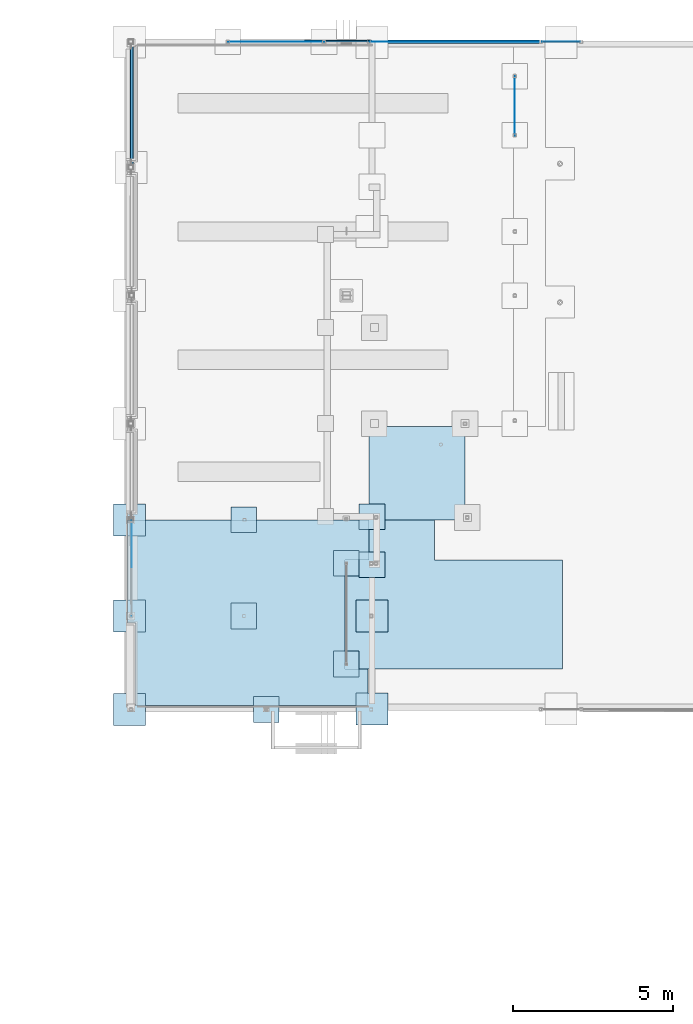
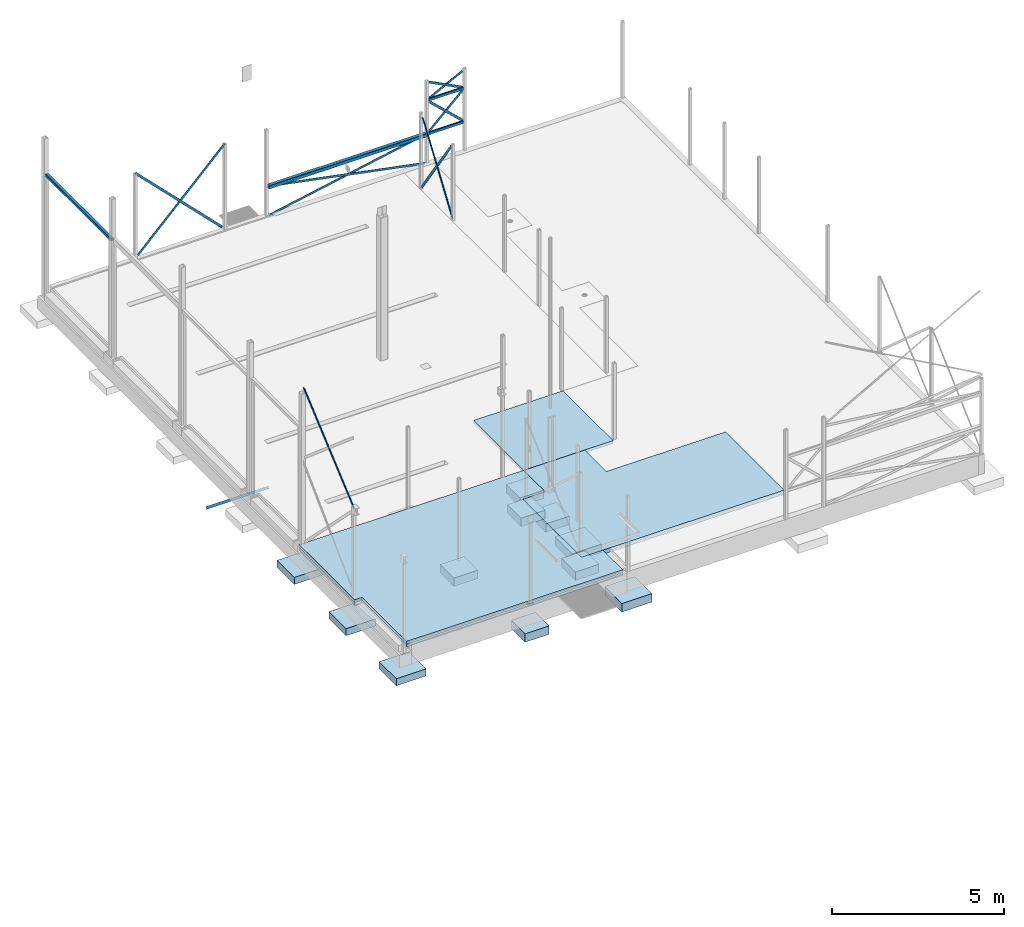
# One storey, part 8 of 18: 16 beams, 16 slabs.
"""IFC2X3 building model written with IfcOpenShell, lengths in millimetres."""

import ifcopenshell
import ifcopenshell.guid

model = None  # the IFC model being written
_history = None  # IfcOwnerHistory: only IFC2X3 demands one
_inside = {}  # id of a spatial element -> (the spatial element, [elements in it])
_under = {}  # id of a project, library or spatial element -> (it, [spatial elements below it])
_declared = {}  # id of a project -> (the project, [libraries it declares])
_typed = {}  # id of a type object -> (the type object, [elements of that type])
_made_of = {}  # id of a material, layer set ... -> (it, [elements and type objects made of it])


def new_model(schema):
    """Start an empty IFC model of exactly this schema.

    Asked for "IFC4X3", IfcOpenShell would pick the latest addendum, in which some entities
    have other attributes; the version numbers below select the first issue.
    IFC2X3 requires an IfcOwnerHistory on every rooted entity: one is made here for all.
    """
    global model, _history
    if schema == "IFC4X3":
        model = ifcopenshell.file(schema_version=(4, 3, 0, 0))
    else:
        model = ifcopenshell.file(schema=schema)
    _inside.clear()
    _under.clear()
    _declared.clear()
    _typed.clear()
    _made_of.clear()
    _history = None
    if model.schema == "IFC2X3":
        org = make("IfcOrganization", Name="unknown")
        user = make(
            "IfcPersonAndOrganization",
            ThePerson=make("IfcPerson", FamilyName="unknown"),
            TheOrganization=org,
        )
        app = make(
            "IfcApplication",
            ApplicationDeveloper=org,
            Version="unknown",
            ApplicationFullName="unknown",
            ApplicationIdentifier="unknown",
        )
        _history = make(
            "IfcOwnerHistory",
            OwningUser=user,
            OwningApplication=app,
            ChangeAction="ADDED",
            CreationDate=0,
        )
    return model


def make(cls, **values):
    """One entity of the class cls with the attributes given. An attribute that is None is left unset."""
    return model.create_entity(
        cls, **{name: value for name, value in values.items() if value is not None}
    )


def entity(cls, *values):
    """Any entity or typed value of the class cls, its attributes in the order of the schema. None: left unset."""
    e = model.create_entity(cls)
    for i, value in enumerate(values):
        if value is not None:
            e[i] = value
    return e


def rooted(cls, **values):
    """An entity with a GlobalId (a new one), such as an element, a storey or a relation."""
    return make(cls, GlobalId=ifcopenshell.guid.new(), OwnerHistory=_history, **values)


def si_unit(unit_type, name, prefix=None):
    """IfcSIUnit, for example si_unit("LENGTHUNIT", "METRE", prefix="MILLI")."""
    return make("IfcSIUnit", UnitType=unit_type, Prefix=prefix, Name=name)


def converted_unit(unit_type, name, factor, base, dimensions=None, offset=None):
    """IfcConversionBasedUnit, such as the inch: factor (a typed value) times the base unit."""
    return make(
        "IfcConversionBasedUnit"
        if offset is None
        else "IfcConversionBasedUnitWithOffset",
        ConversionOffset=offset,
        Dimensions=None
        if dimensions is None
        else entity("IfcDimensionalExponents", *dimensions),
        UnitType=unit_type,
        Name=name,
        ConversionFactor=make(
            "IfcMeasureWithUnit", ValueComponent=factor, UnitComponent=base
        ),
    )


def derived_unit(unit_type, elements):
    """IfcDerivedUnit: a product of units, each with its exponent."""
    return make(
        "IfcDerivedUnit",
        Elements=[
            make("IfcDerivedUnitElement", Unit=unit, Exponent=power)
            for unit, power in elements
        ],
        UnitType=unit_type,
    )


def assignment(units):
    """IfcUnitAssignment: the units of a project."""
    return None if units is None else make("IfcUnitAssignment", Units=units)


def point(xyz):
    """IfcCartesianPoint."""
    return None if xyz is None else make("IfcCartesianPoint", Coordinates=xyz)


def direction(xyz):
    """IfcDirection."""
    return None if xyz is None else make("IfcDirection", DirectionRatios=xyz)


def frame(location, z_axis=None, x_axis=None):
    """IfcAxis2Placement3D, a coordinate frame: its origin and axes. An axis left out is left unset."""
    return make(
        "IfcAxis2Placement3D",
        Location=point(location),
        Axis=direction(z_axis),
        RefDirection=direction(x_axis),
    )


def frame_2d(location, x_axis=None):
    """IfcAxis2Placement2D, a coordinate frame in the plane: its origin and x axis."""
    return make(
        "IfcAxis2Placement2D", Location=point(location), RefDirection=direction(x_axis)
    )


def origin():
    """The frame at (0, 0, 0) with its axes left unset."""
    return frame((0.0, 0.0, 0.0))


def origin_2d_with_axis():
    """The frame at (0, 0) in the plane with the x axis (1, 0) written out."""
    return frame_2d((0.0, 0.0), x_axis=(1.0, 0.0))


def place(relative_to, where):
    """IfcLocalPlacement: puts the frame where relative to a parent placement (None: the world)."""
    return make(
        "IfcLocalPlacement", PlacementRelTo=relative_to, RelativePlacement=where
    )


def context(
    kind, dimensions, precision=None, world=None, true_north=None, identifier=None
):
    """IfcGeometricRepresentationContext, for example the 3D "Model" context."""
    return make(
        "IfcGeometricRepresentationContext",
        ContextIdentifier=identifier,
        ContextType=kind,
        CoordinateSpaceDimension=dimensions,
        Precision=precision,
        WorldCoordinateSystem=world,
        TrueNorth=true_north,
    )


def subcontext(parent, identifier, kind, view, scale=None):
    """IfcGeometricRepresentationSubContext, for example "Body" below "Model"."""
    return make(
        "IfcGeometricRepresentationSubContext",
        ContextIdentifier=identifier,
        ContextType=kind,
        ParentContext=parent,
        TargetScale=scale,
        TargetView=view,
    )


def project(units=None, contexts=None):
    """IfcProject with its units and contexts."""
    return rooted(
        "IfcProject",
        Name="project",
        RepresentationContexts=contexts,
        UnitsInContext=assignment(units),
    )


def spatial(cls, under=None, at=None, **own):
    """A site, building, storey or space (cls), placed at a placement, below another one or the project."""
    s = rooted(cls, ObjectPlacement=at, **own)
    if under is not None:
        _under.setdefault(under.id(), (under, []))[1].append(s)
    return s


def polyline(points):
    """IfcPolyline through the points."""
    return make("IfcPolyline", Points=[point(p) for p in points])


def circle_curve(where, radius):
    """IfcCircle in the frame where."""
    return make("IfcCircle", Position=where, Radius=radius)


def parameter(value):
    """IfcParameterValue: where a trimmed curve begins or ends, as a parameter of its basis curve."""
    return model.create_entity("IfcParameterValue", value)


def trimmed(basis, trim1, trim2, sense, master):
    """IfcTrimmedCurve: the piece of a basis curve between two trims."""
    return make(
        "IfcTrimmedCurve",
        BasisCurve=basis,
        Trim1=trim1,
        Trim2=trim2,
        SenseAgreement=sense,
        MasterRepresentation=master,
    )


def segment(curve, same_sense, transition):
    """IfcCompositeCurveSegment."""
    return make(
        "IfcCompositeCurveSegment",
        Transition=transition,
        SameSense=same_sense,
        ParentCurve=curve,
    )


def composite_curve(segments, self_intersect=None):
    """IfcCompositeCurve: segments joined end to end."""
    return make("IfcCompositeCurve", Segments=segments, SelfIntersect=self_intersect)


def profile(cls, at=None, kind="AREA", **sizes):
    """A parametric profile (cls). Its sizes go by their IFC names, for example OverallWidth=200.0."""
    return make(cls, ProfileType=kind, Position=at, **sizes)


def rectangle(**sizes):
    """IfcRectangleProfileDef."""
    return profile("IfcRectangleProfileDef", **sizes)


def outline(outer, holes=None, kind="AREA"):
    """IfcArbitraryClosedProfileDef: a profile drawn as a closed curve; with holes, ...WithVoids."""
    if holes is None:
        return make("IfcArbitraryClosedProfileDef", ProfileType=kind, OuterCurve=outer)
    return make(
        "IfcArbitraryProfileDefWithVoids",
        ProfileType=kind,
        OuterCurve=outer,
        InnerCurves=holes,
    )


def extrude(swept, where, along, depth):
    """IfcExtrudedAreaSolid: the profile swept, set in the frame where, extruded along a direction by depth."""
    return make(
        "IfcExtrudedAreaSolid",
        SweptArea=swept,
        Position=where,
        ExtrudedDirection=direction(along),
        Depth=depth,
    )


def faces_of(points, faces, orient=None, outer=None):
    """IfcFace entities. A face is a list of loops; a loop is a list of indices into points, from 0.

    orient and outer hold one flag for each loop. By default every Orientation is true, the
    first loop of a face is its IfcFaceOuterBound and the others are IfcFaceBound.
    """
    made = []
    for i, loops in enumerate(faces):
        bounds = []
        for j, loop in enumerate(loops):
            is_outer = j == 0 if outer is None else outer[i][j]
            bounds.append(
                make(
                    "IfcFaceOuterBound" if is_outer else "IfcFaceBound",
                    Bound=make("IfcPolyLoop", Polygon=[points[k] for k in loop]),
                    Orientation=True if orient is None else orient[i][j],
                )
            )
        made.append(make("IfcFace", Bounds=bounds))
    return made


def faceted_brep(points, faces, orient=None, outer=None, voids=None):
    """IfcFacetedBrep: a solid bounded by flat faces; with voids (closed shells), ...WithVoids."""
    shared = [point(p) for p in points]
    hull = make("IfcClosedShell", CfsFaces=faces_of(shared, faces, orient, outer))
    if voids is None:
        return make("IfcFacetedBrep", Outer=hull)
    return make(
        "IfcFacetedBrepWithVoids",
        Outer=hull,
        Voids=[
            make(cls, CfsFaces=faces_of(shared, fs, o, b)) for cls, fs, o, b in voids
        ],
    )


def shape(context_of_items, identifier, shape_type, items):
    """IfcShapeRepresentation: the items that make up one representation, for example the "Body"."""
    return make(
        "IfcShapeRepresentation",
        ContextOfItems=context_of_items,
        RepresentationIdentifier=identifier,
        RepresentationType=shape_type,
        Items=items,
    )


def material(Name=None, Category=None):
    """IfcMaterial."""
    return make("IfcMaterial", Name=Name, Category=Category)


def layer(
    of_material, thickness, ventilated=None, Name=None, Category=None, Priority=None
):
    """IfcMaterialLayer: one layer of a wall or slab, of a material (None: an air gap)."""
    return make(
        "IfcMaterialLayer",
        Material=of_material,
        LayerThickness=thickness,
        IsVentilated=ventilated,
        Name=Name,
        Category=Category,
        Priority=Priority,
    )


def layer_set(layers, Name=None):
    """IfcMaterialLayerSet."""
    return make("IfcMaterialLayerSet", MaterialLayers=layers, LayerSetName=Name)


def layer_usage(for_layer_set, set_direction, sense, offset, extent=None):
    """IfcMaterialLayerSetUsage: how a layer set lies in its element."""
    return make(
        "IfcMaterialLayerSetUsage",
        ForLayerSet=for_layer_set,
        LayerSetDirection=set_direction,
        DirectionSense=sense,
        OffsetFromReferenceLine=offset,
        ReferenceExtent=extent,
    )


def made_of(thing, what):
    """Note that an element or type object is made of a material, layer set ...; save() writes the relation."""
    if what is not None:
        _made_of.setdefault(what.id(), (what, []))[1].append(thing)
    return thing


def type_object(cls, material=None, **own):
    """A type object (cls), such as IfcWallType, which elements share."""
    return made_of(rooted(cls, **own), material)


def element(
    cls,
    number,
    at=None,
    inside=None,
    cuts=None,
    type_object=None,
    material=None,
    context=None,
    identifier="Body",
    shape_type=None,
    held_by="IfcProductDefinitionShape",
    body=None,
    shapes=None,
    **own,
):
    """One element of the class cls, such as IfcWall. Its Tag is "e" and its number.

    at: its placement. inside: the storey or other place that contains it. cuts: it is an
    opening in that element (IfcRelVoidsElement). A single representation is given by context,
    identifier, shape_type and body (its items); several are given by shapes. held_by: the class
    of the entity that holds the representations. save() writes the other relations.
    """
    e = rooted(cls, Tag="e%d" % number, ObjectPlacement=at, **own)
    if body is not None:
        shapes = [shape(context, identifier, shape_type, body)]
    if shapes is not None:
        e.Representation = make(held_by, Representations=shapes)
    if inside is not None:
        _inside.setdefault(inside.id(), (inside, []))[1].append(e)
    if cuts is not None:
        rooted(
            "IfcRelVoidsElement", RelatingBuildingElement=cuts, RelatedOpeningElement=e
        )
    if type_object is not None:
        _typed.setdefault(type_object.id(), (type_object, []))[1].append(e)
    return made_of(e, material)


def aggregate(whole, parts):
    """IfcRelAggregates: a whole, such as a stair, and the parts it consists of."""
    return rooted("IfcRelAggregates", RelatingObject=whole, RelatedObjects=parts)


def save(model, path):
    """Write the relations noted so far, then the file.

    IfcRelAggregates (storeys below a building ...), IfcRelContainedInSpatialStructure (elements
    in a storey), IfcRelDefinesByType, IfcRelAssociatesMaterial and IfcRelDeclares: one each for
    every whole, place, type object, material and project.
    """
    for whole, parts in _under.values():
        aggregate(whole, parts)
    for where, things in _inside.values():
        rooted(
            "IfcRelContainedInSpatialStructure",
            RelatedElements=things,
            RelatingStructure=where,
        )
    for kind, things in _typed.values():
        rooted("IfcRelDefinesByType", RelatedObjects=things, RelatingType=kind)
    for what, things in _made_of.values():
        rooted("IfcRelAssociatesMaterial", RelatedObjects=things, RelatingMaterial=what)
    for by, libraries in _declared.values():
        rooted("IfcRelDeclares", RelatingContext=by, RelatedDefinitions=libraries)
    model.write(path)


model = new_model("IFC2X3")

# Units and contexts
model_context = context("Model", 3, precision=0.01, world=origin(), true_north=direction((6.12303176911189e-17, 1.0)))
body_context = subcontext(model_context, "Body", "Model", "MODEL_VIEW")
ifc_project = project(units=[si_unit("LENGTHUNIT", "METRE", prefix="MILLI"), si_unit("AREAUNIT", "SQUARE_METRE"), si_unit("VOLUMEUNIT", "CUBIC_METRE"), converted_unit("PLANEANGLEUNIT", "DEGREE", entity("IfcRatioMeasure", 0.0174532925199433), si_unit("PLANEANGLEUNIT", "RADIAN"), dimensions=[0, 0, 0, 0, 0, 0, 0]), si_unit("MASSUNIT", "GRAM", prefix="KILO"), derived_unit("MASSDENSITYUNIT", [(si_unit("MASSUNIT", "GRAM", prefix="KILO"), 1), (si_unit("LENGTHUNIT", "METRE"), -3)]), si_unit("TIMEUNIT", "SECOND"), si_unit("FREQUENCYUNIT", "HERTZ"), si_unit("THERMODYNAMICTEMPERATUREUNIT", "DEGREE_CELSIUS"), derived_unit("THERMALTRANSMITTANCEUNIT", [(si_unit("MASSUNIT", "GRAM", prefix="KILO"), 1), (si_unit("THERMODYNAMICTEMPERATUREUNIT", "KELVIN"), -1), (si_unit("TIMEUNIT", "SECOND"), -3)]), derived_unit("VOLUMETRICFLOWRATEUNIT", [(si_unit("LENGTHUNIT", "METRE"), 3), (si_unit("TIMEUNIT", "SECOND"), -1)]), si_unit("ELECTRICCURRENTUNIT", "AMPERE"), si_unit("ELECTRICVOLTAGEUNIT", "VOLT"), si_unit("POWERUNIT", "WATT"), si_unit("FORCEUNIT", "NEWTON", prefix="KILO"), si_unit("ILLUMINANCEUNIT", "LUX"), si_unit("LUMINOUSFLUXUNIT", "LUMEN"), si_unit("LUMINOUSINTENSITYUNIT", "CANDELA"), derived_unit("USERDEFINED", [(si_unit("MASSUNIT", "GRAM", prefix="KILO"), -1), (si_unit("LENGTHUNIT", "METRE"), -2), (si_unit("TIMEUNIT", "SECOND"), 3), (si_unit("LUMINOUSFLUXUNIT", "LUMEN"), 1)]), derived_unit("LINEARVELOCITYUNIT", [(si_unit("LENGTHUNIT", "METRE"), 1), (si_unit("TIMEUNIT", "SECOND"), -1)]), si_unit("PRESSUREUNIT", "PASCAL"), derived_unit("USERDEFINED", [(si_unit("LENGTHUNIT", "METRE"), -2), (si_unit("MASSUNIT", "GRAM", prefix="KILO"), 1), (si_unit("TIMEUNIT", "SECOND"), -2)])], contexts=[model_context])

# Site, building, storey
site_placement = place(None, frame((0.0, 0.0, 101000.0)))
site = spatial("IfcSite", under=ifc_project, at=site_placement, Name="Default", CompositionType="ELEMENT")
building_placement = place(site_placement, origin())
building = spatial("IfcBuilding", under=site, at=building_placement, CompositionType="ELEMENT")
storey_placement = place(building_placement, origin())
storey = spatial("IfcBuildingStorey", under=building, at=storey_placement, Name="01", CompositionType="ELEMENT", Elevation=8.9295595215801e-10)

# Beams
ifc_material_1 = material(Name="S355")
beam_type_1 = type_object("IfcBeamType", Name="Bjelke HUP:HUP 100x50x5", PredefinedType="BEAM")
beam_1_placement = place(storey_placement, frame((17817.2389636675, 44337.9507529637, 1045.0), z_axis=(0.0, 0.0, 1.0), x_axis=(-1.0, 0.0, 0.0)))
element("IfcBeam", 1, at=beam_1_placement, inside=storey, type_object=beam_type_1, material=ifc_material_1, Name="Bjelke HUP:HUP 100x50x5", ObjectType="Bjelke HUP:HUP 100x50x5", context=body_context, shape_type="SweptSolid", body=[
    extrude(outline(composite_curve([segment(trimmed(circle_curve(frame_2d((-15.0, -40.0), x_axis=(1.0, 0.0)), 10.0), [parameter(180.0)], [parameter(270.0)], True, "PARAMETER"), True, "CONTINUOUS"), segment(polyline([(-15.0, -50.0), (15.0, -50.0)]), True, "CONTINUOUS"), segment(trimmed(circle_curve(frame_2d((15.0, -40.0), x_axis=(1.0, 0.0)), 10.0), [parameter(270.0)], [parameter(1.01777749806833e-13)], True, "PARAMETER"), True, "CONTINUOUS"), segment(polyline([(25.0, -40.0), (25.0, 40.0)]), True, "CONTINUOUS"), segment(trimmed(circle_curve(frame_2d((15.0, 40.0), x_axis=(1.0, 0.0)), 10.0), [parameter(360.0)], [parameter(89.9999999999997)], True, "PARAMETER"), True, "CONTINUOUS"), segment(polyline([(15.0, 50.0), (-15.0, 50.0)]), True, "CONTINUOUS"), segment(trimmed(circle_curve(frame_2d((-15.0, 40.0), x_axis=(1.0, 0.0)), 10.0), [parameter(90.0000000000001)], [parameter(180.0)], True, "PARAMETER"), True, "CONTINUOUS"), segment(polyline([(-25.0, 40.0), (-25.0, -40.0)]), True, "CONTINUOUS")], self_intersect=False), holes=[composite_curve([segment(polyline([(15.0, -45.0), (-15.0, -45.0)]), True, "CONTINUOUS"), segment(trimmed(circle_curve(frame_2d((-15.0, -40.0), x_axis=(1.0, 0.0)), 5.0), [parameter(180.0)], [parameter(270.0)], True, "PARAMETER"), False, "CONTINUOUS"), segment(polyline([(-20.0, -40.0), (-20.0, 40.0)]), True, "CONTINUOUS"), segment(trimmed(circle_curve(frame_2d((-15.0, 40.0), x_axis=(1.0, 0.0)), 5.0), [parameter(90.0000000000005)], [parameter(180.0)], True, "PARAMETER"), False, "CONTINUOUS"), segment(polyline([(-15.0, 45.0), (15.0, 45.0)]), True, "CONTINUOUS"), segment(trimmed(circle_curve(frame_2d((15.0, 40.0), x_axis=(1.0, 0.0)), 5.0), [parameter(0.0)], [parameter(90.0000000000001)], True, "PARAMETER"), False, "CONTINUOUS"), segment(polyline([(20.0, 40.0), (20.0, -40.0)]), True, "CONTINUOUS"), segment(trimmed(circle_curve(frame_2d((15.0, -40.0), x_axis=(1.0, 0.0)), 5.0), [parameter(270.0)], [parameter(3.05333249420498e-13)], True, "PARAMETER"), False, "CONTINUOUS")], self_intersect=False)]), frame((50.0, 0.0, -50.0), z_axis=(1.0, 0.0, 0.0), x_axis=(0.0, -1.0, 0.0)), (0.0, 0.0, 1.0), 1161.94875565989),
])
beam_2_placement = place(storey_placement, frame((16555.2902080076, 44337.9507529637, 2235.0)))
element("IfcBeam", 2, at=beam_2_placement, inside=storey, type_object=beam_type_1, material=ifc_material_1, Name="Bjelke HUP:HUP 100x50x5", ObjectType="Bjelke HUP:HUP 100x50x5", context=body_context, shape_type="SweptSolid", body=[
    extrude(outline(composite_curve([segment(trimmed(circle_curve(frame_2d((-15.0, -40.0), x_axis=(1.0, 0.0)), 10.0), [parameter(180.0)], [parameter(270.0)], True, "PARAMETER"), True, "CONTINUOUS"), segment(polyline([(-15.0, -50.0), (15.0, -50.0)]), True, "CONTINUOUS"), segment(trimmed(circle_curve(frame_2d((15.0, -40.0), x_axis=(1.0, 0.0)), 10.0), [parameter(270.0)], [parameter(1.01777749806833e-13)], True, "PARAMETER"), True, "CONTINUOUS"), segment(polyline([(25.0, -40.0), (25.0, 40.0)]), True, "CONTINUOUS"), segment(trimmed(circle_curve(frame_2d((15.0, 40.0), x_axis=(1.0, 0.0)), 10.0), [parameter(360.0)], [parameter(89.9999999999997)], True, "PARAMETER"), True, "CONTINUOUS"), segment(polyline([(15.0, 50.0), (-15.0, 50.0)]), True, "CONTINUOUS"), segment(trimmed(circle_curve(frame_2d((-15.0, 40.0), x_axis=(1.0, 0.0)), 10.0), [parameter(90.0000000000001)], [parameter(180.0)], True, "PARAMETER"), True, "CONTINUOUS"), segment(polyline([(-25.0, 40.0), (-25.0, -40.0)]), True, "CONTINUOUS")], self_intersect=False), holes=[composite_curve([segment(polyline([(15.0, -45.0), (-15.0, -45.0)]), True, "CONTINUOUS"), segment(trimmed(circle_curve(frame_2d((-15.0, -40.0), x_axis=(1.0, 0.0)), 5.0), [parameter(180.0)], [parameter(270.0)], True, "PARAMETER"), False, "CONTINUOUS"), segment(polyline([(-20.0, -40.0), (-20.0, 40.0)]), True, "CONTINUOUS"), segment(trimmed(circle_curve(frame_2d((-15.0, 40.0), x_axis=(1.0, 0.0)), 5.0), [parameter(90.0000000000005)], [parameter(180.0)], True, "PARAMETER"), False, "CONTINUOUS"), segment(polyline([(-15.0, 45.0), (15.0, 45.0)]), True, "CONTINUOUS"), segment(trimmed(circle_curve(frame_2d((15.0, 40.0), x_axis=(1.0, 0.0)), 5.0), [parameter(0.0)], [parameter(90.0000000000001)], True, "PARAMETER"), False, "CONTINUOUS"), segment(polyline([(20.0, 40.0), (20.0, -40.0)]), True, "CONTINUOUS"), segment(trimmed(circle_curve(frame_2d((15.0, -40.0), x_axis=(1.0, 0.0)), 5.0), [parameter(270.0)], [parameter(3.05333249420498e-13)], True, "PARAMETER"), False, "CONTINUOUS")], self_intersect=False)]), frame((50.0, 0.0, -50.0), z_axis=(1.0, 0.0, 0.0), x_axis=(0.0, -1.0, 0.0)), (0.0, 0.0, 1.0), 1161.94875565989),
])
beam_type_2 = type_object("IfcBeamType", Name="Bjelke HUP:HUP 120x120x5", PredefinedType="BEAM")
beam_3_placement = place(storey_placement, frame((16555.2902080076, 44337.9507529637, 1045.0), z_axis=(0.0, 0.0, 1.0), x_axis=(-1.0, 0.0, 0.0)))
element("IfcBeam", 3, at=beam_3_placement, inside=storey, type_object=beam_type_2, material=ifc_material_1, Name="Bjelke HUP:HUP 120x120x5", ObjectType="Bjelke HUP:HUP 120x120x5", context=body_context, shape_type="SweptSolid", body=[
    extrude(outline(composite_curve([segment(trimmed(circle_curve(frame_2d((-50.0, -50.0), x_axis=(1.0, 0.0)), 10.0), [parameter(180.0)], [parameter(269.999999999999)], True, "PARAMETER"), True, "CONTINUOUS"), segment(polyline([(-50.0, -60.0), (50.0, -60.0)]), True, "CONTINUOUS"), segment(trimmed(circle_curve(frame_2d((50.0, -50.0), x_axis=(1.0, 0.0)), 10.0), [parameter(270.0)], [parameter(5.08888749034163e-14)], True, "PARAMETER"), True, "CONTINUOUS"), segment(polyline([(60.0, -50.0), (60.0, 50.0)]), True, "CONTINUOUS"), segment(trimmed(circle_curve(frame_2d((50.0, 50.0), x_axis=(1.0, 0.0)), 10.0), [parameter(360.0)], [parameter(89.9999999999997)], True, "PARAMETER"), True, "CONTINUOUS"), segment(polyline([(50.0, 60.0), (-50.0, 60.0)]), True, "CONTINUOUS"), segment(trimmed(circle_curve(frame_2d((-50.0, 50.0), x_axis=(1.0, 0.0)), 10.0), [parameter(90.0000000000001)], [parameter(180.0)], True, "PARAMETER"), True, "CONTINUOUS"), segment(polyline([(-60.0, 50.0), (-60.0, -50.0)]), True, "CONTINUOUS")], self_intersect=False), holes=[composite_curve([segment(polyline([(50.0, -55.0), (-50.0, -55.0)]), True, "CONTINUOUS"), segment(trimmed(circle_curve(frame_2d((-50.0, -50.0), x_axis=(1.0, 0.0)), 5.0), [parameter(180.0)], [parameter(270.0)], True, "PARAMETER"), False, "CONTINUOUS"), segment(polyline([(-55.0, -50.0), (-55.0, 50.0)]), True, "CONTINUOUS"), segment(trimmed(circle_curve(frame_2d((-50.0, 50.0), x_axis=(1.0, 0.0)), 5.0), [parameter(90.0000000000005)], [parameter(180.0)], True, "PARAMETER"), False, "CONTINUOUS"), segment(polyline([(-50.0, 55.0), (50.0, 55.0)]), True, "CONTINUOUS"), segment(trimmed(circle_curve(frame_2d((50.0, 50.0), x_axis=(1.0, 0.0)), 5.0), [parameter(0.0)], [parameter(90.0000000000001)], True, "PARAMETER"), False, "CONTINUOUS"), segment(polyline([(55.0, 50.0), (55.0, -50.0)]), True, "CONTINUOUS"), segment(trimmed(circle_curve(frame_2d((50.0, -50.0), x_axis=(1.0, 0.0)), 5.0), [parameter(270.0)], [parameter(3.05333249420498e-13)], True, "PARAMETER"), False, "CONTINUOUS")], self_intersect=False)]), frame((50.0, 0.0, -60.0), z_axis=(1.0, 0.0, 0.0), x_axis=(0.0, -1.0, 0.0)), (0.0, 0.0, 1.0), 5269.02571102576),
])
ifc_material_2 = material(Name="Structural Framing Fireproofing")
beam_type_3 = type_object("IfcBeamType", Name="Bjelke Stålplate:VINDKRYSS", PredefinedType="BEAM")
beam_4_placement = place(storey_placement, frame((16555.2902080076, 44337.9507529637, 0.0), z_axis=(0.19364292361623, 0.0, 0.98107207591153), x_axis=(-0.98107207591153, 0.0, 0.19364292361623)))
element("IfcBeam", 4, at=beam_4_placement, inside=storey, type_object=beam_type_3, material=ifc_material_2, Name="Bjelke Stålplate:VINDKRYSS", ObjectType="Bjelke Stålplate:VINDKRYSS", context=body_context, shape_type="SweptSolid", body=[
    extrude(rectangle(XDim=79.9999999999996, YDim=8.00000000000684, at=frame_2d((3.5527136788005e-15, -4.33164615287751e-12), x_axis=(1.0, 0.0))), frame((50.9646551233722, 0.0, -40.0), z_axis=(1.0, 0.0, 0.0), x_axis=(0.0, 0.0, -1.0)), (0.0, 0.0, 1.0), 5354.89125226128),
])
beam_5_placement = place(storey_placement, frame((11260.9045409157, 44337.9507529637, 0.0), z_axis=(-0.19364292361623, 0.0, 0.98107207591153), x_axis=(0.98107207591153, 0.0, 0.19364292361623)))
element("IfcBeam", 5, at=beam_5_placement, inside=storey, type_object=beam_type_3, material=ifc_material_2, Name="Bjelke Stålplate:VINDKRYSS", ObjectType="Bjelke Stålplate:VINDKRYSS", context=body_context, shape_type="SweptSolid", body=[
    extrude(rectangle(XDim=79.9999999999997, YDim=8.00000000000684, at=frame_2d((9.2370555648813e-14, -4.33164615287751e-12), x_axis=(1.0, 0.0))), frame((6.09600813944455e-07, 0.0, -40.0), z_axis=(1.0, 0.0, 0.0), x_axis=(0.0, 0.0, -1.0)), (0.0, 0.0, 1.0), 5329.77582482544),
])
beam_6_placement = place(storey_placement, frame((16555.2902080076, 44337.9507529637, 2235.0), z_axis=(0.686062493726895, 0.0, 0.727542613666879), x_axis=(0.727542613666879, 0.0, -0.686062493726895)))
element("IfcBeam", 6, at=beam_6_placement, inside=storey, type_object=beam_type_3, material=ifc_material_2, Name="Bjelke Stålplate:VINDKRYSS", ObjectType="Bjelke Stålplate:VINDKRYSS", context=body_context, shape_type="SweptSolid", body=[
    extrude(rectangle(XDim=80.0000000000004, YDim=8.00000000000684, at=frame_2d((0.0, -4.33164615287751e-12), x_axis=(1.0, 0.0))), frame((144.163376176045, 0.0, -40.0), z_axis=(1.0, 0.0, 0.0), x_axis=(0.0, 0.0, -1.0)), (0.0, 0.0, 1.0), 1521.64799059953),
])
beam_7_placement = place(storey_placement, frame((16555.2902080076, 44337.9507529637, 1045.0), z_axis=(-0.686062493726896, 0.0, 0.727542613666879), x_axis=(0.727542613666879, 0.0, 0.686062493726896)))
element("IfcBeam", 7, at=beam_7_placement, inside=storey, type_object=beam_type_3, material=ifc_material_2, Name="Bjelke Stålplate:VINDKRYSS", ObjectType="Bjelke Stålplate:VINDKRYSS", context=body_context, shape_type="SweptSolid", body=[
    extrude(rectangle(XDim=80.0000000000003, YDim=8.00000000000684, at=frame_2d((-5.32907051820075e-14, -4.33164615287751e-12), x_axis=(1.0, 0.0))), frame((68.7244967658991, 0.0, -40.0), z_axis=(1.0, 0.0, 0.0), x_axis=(0.0, 0.0, -1.0)), (0.0, 0.0, 1.0), 1521.64799059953),
])
beam_8_placement = place(storey_placement, frame((17817.2389636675, 44337.9507529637, 2235.0), z_axis=(0.457903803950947, 0.0, 0.889001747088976), x_axis=(-0.889001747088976, 0.0, 0.457903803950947)))
element("IfcBeam", 8, at=beam_8_placement, inside=storey, type_object=beam_type_3, material=ifc_material_2, Name="Bjelke Stålplate:VINDKRYSS", ObjectType="Bjelke Stålplate:VINDKRYSS", context=body_context, shape_type="SweptSolid", body=[
    extrude(rectangle(XDim=79.9999999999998, YDim=8.00000000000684, at=frame_2d((-7.35411731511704e-13, -4.33164615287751e-12), x_axis=(1.0, 0.0))), frame((56.2428590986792, 0.0, -40.0), z_axis=(1.0, 0.0, 0.0), x_axis=(0.0, 0.0, -1.0)), (0.0, 0.0, 1.0), 1265.82029228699),
])
beam_9_placement = place(storey_placement, frame((16555.2902080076, 44337.9507529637, 2235.0), z_axis=(-0.457903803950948, 0.0, 0.889001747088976), x_axis=(0.889001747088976, 0.0, 0.457903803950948)))
element("IfcBeam", 9, at=beam_9_placement, inside=storey, type_object=beam_type_3, material=ifc_material_2, Name="Bjelke Stålplate:VINDKRYSS", ObjectType="Bjelke Stålplate:VINDKRYSS", context=body_context, shape_type="SweptSolid", body=[
    extrude(rectangle(XDim=79.9999999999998, YDim=8.00000000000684, at=frame_2d((-8.5265128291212e-13, -4.33164615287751e-12), x_axis=(1.0, 0.0))), frame((56.2428590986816, 0.0, -40.0), z_axis=(1.0, 0.0, 0.0), x_axis=(0.0, 0.0, -1.0)), (0.0, 0.0, 1.0), 1265.82029228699),
])
beam_10_placement = place(storey_placement, frame((3782.26449698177, 26423.5207742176, 3014.03354590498), z_axis=(0.0, -0.649485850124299, 0.760373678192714), x_axis=(0.0, 0.760373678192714, 0.649485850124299)))
element("IfcBeam", 10, at=beam_10_placement, inside=storey, type_object=beam_type_3, material=ifc_material_2, Name="Bjelke Stålplate:VINDKRYSS", ObjectType="Bjelke Stålplate:VINDKRYSS", context=body_context, shape_type="Brep", body=[
    faceted_brep([(39.5081555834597, 0.0, 46.2534504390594), (39.5081555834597, 0.0, -33.7465495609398), (39.5081555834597, -8.0, -33.7465495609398), (39.5081555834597, -8.0, 46.2534504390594), (3878.04333170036, 0.0, -33.7465495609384), (3878.04333170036, -8.0, -33.7465495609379), (3847.34563097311, 0.0, 46.2534504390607), (124.400782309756, 0.0, 46.2534504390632), (124.400782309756, -8.0, 46.2534504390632), (3847.34563097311, -8.0, 46.2534504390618), (3903.9527329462, 0.0, -3.41359200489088), (3903.84184511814, 0.0, -2.00373247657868), (3904.18928050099, 0.0, -2.6856966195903), (3903.84184511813, -8.0, -2.00373247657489), (3903.95273294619, -8.0, -3.41359200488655), (3904.18928050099, -8.0, -2.68569661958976)], [[[0, 1, 2, 3]], [[2, 1, 4, 5]], [[6, 7, 0, 3, 8, 9]], [[10, 4, 1, 0, 7, 6, 11, 12]], [[13, 9, 8, 3, 2, 5, 14, 15]], [[14, 5, 4, 10]], [[10, 12, 15, 14]], [[15, 12, 11, 13]], [[13, 11, 6, 9]]]),
])
beam_11_placement = place(storey_placement, frame((15742.4253486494, 41417.9507529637, 2685.0), z_axis=(1.0, 0.0, 0.0), x_axis=(0.0, 0.567374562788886, -0.823459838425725)))
element("IfcBeam", 11, at=beam_11_placement, inside=storey, type_object=beam_type_3, material=ifc_material_2, Name="Bjelke Stålplate:VINDKRYSS", ObjectType="Bjelke Stålplate:VINDKRYSS", context=body_context, shape_type="SweptSolid", body=[
    extrude(rectangle(XDim=80.0000000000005, YDim=8.00000000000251, at=frame_2d((2.16537898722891e-12, 4.79616346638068e-12), x_axis=(0.0, 1.0))), frame((158.879259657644, 0.0, 0.0), z_axis=(1.0, 0.0, 0.0), x_axis=(0.0, 0.0, -1.0)), (0.0, 0.0, 1.0), 3055.57408801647),
])
beam_12_placement = place(storey_placement, frame((15742.4253486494, 43267.9507529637, 2685.0), z_axis=(1.0, 0.0, 0.0), x_axis=(0.0, -0.56737456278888, -0.823459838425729)))
element("IfcBeam", 12, at=beam_12_placement, inside=storey, type_object=beam_type_3, material=ifc_material_2, Name="Bjelke Stålplate:VINDKRYSS", ObjectType="Bjelke Stålplate:VINDKRYSS", context=body_context, shape_type="SweptSolid", body=[
    extrude(rectangle(XDim=80.0000000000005, YDim=8.00000000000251, at=frame_2d((0.0, -1.03597130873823e-11), x_axis=(0.0, 1.0))), frame((158.8792596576, 0.0, 0.0), z_axis=(1.0, 0.0, 0.0), x_axis=(0.0, 0.0, -1.0)), (0.0, 0.0, 1.0), 3055.5740880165),
])
beam_13_placement = place(storey_placement, frame((11261.2644969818, 44336.138856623, -9725.11900521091), z_axis=(0.0, 0.0, 1.0), x_axis=(-1.0, 0.0, 0.0)))
element("IfcBeam", 13, at=beam_13_placement, inside=storey, type_object=beam_type_3, material=ifc_material_2, Name="Bjelke Stålplate:VINDKRYSS", ObjectType="Bjelke Stålplate:VINDKRYSS", context=body_context, shape_type="SweptSolid", body=[
    extrude(rectangle(XDim=80.0000000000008, YDim=8.00000000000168, at=frame_2d((-5.21538368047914e-12, -6.93933799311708e-12), x_axis=(1.0, 0.0))), frame((0.0, -25.9794340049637, 30.4149471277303), z_axis=(1.0, 0.0, 0.0), x_axis=(0.0, -0.649485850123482, 0.760373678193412)), (0.0, 0.0, 1.0), 2080.0),
])
beam_14_placement = place(storey_placement, frame((9786.26449698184, 44337.9507529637, 0.0), z_axis=(0.709452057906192, 0.0, 0.704753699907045), x_axis=(-0.704753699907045, 0.0, 0.709452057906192)))
element("IfcBeam", 14, at=beam_14_placement, inside=storey, type_object=beam_type_3, material=ifc_material_2, Name="Bjelke Stålplate:VINDKRYSS", ObjectType="Bjelke Stålplate:VINDKRYSS", context=body_context, shape_type="SweptSolid", body=[
    extrude(rectangle(XDim=79.9999999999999, YDim=7.99999999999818, at=frame_2d((-3.90798504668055e-14, 8.6630702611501e-12), x_axis=(1.0, 0.0))), frame((123.913438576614, 0.0, 0.0), z_axis=(1.0, 0.0, 0.0), x_axis=(0.0, 0.0, -1.0)), (0.0, 0.0, 1.0), 4121.67943744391),
])
beam_15_placement = place(storey_placement, frame((6786.26449698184, 44337.9507529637, 0.0), z_axis=(0.709452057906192, 0.0, -0.704753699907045), x_axis=(0.704753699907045, 0.0, 0.709452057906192)))
element("IfcBeam", 15, at=beam_15_placement, inside=storey, type_object=beam_type_3, material=ifc_material_2, Name="Bjelke Stålplate:VINDKRYSS", ObjectType="Bjelke Stålplate:VINDKRYSS", context=body_context, shape_type="SweptSolid", body=[
    extrude(rectangle(XDim=79.9999999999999, YDim=8.00000000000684, at=frame_2d((7.63833440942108e-13, -4.33164615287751e-12), x_axis=(1.0, 0.0))), frame((123.913438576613, 0.0, 0.0), z_axis=(1.0, 0.0, 0.0), x_axis=(0.0, 0.0, -1.0)), (0.0, 0.0, 1.0), 4121.67943744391),
])
beam_type_4 = type_object("IfcBeamType", Name="Bjelke HUP:HUP 100x100x5", PredefinedType="BEAM")
beam_16_placement = place(storey_placement, frame((3786.26449698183, 44287.9507529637, 4000.0), z_axis=(0.0, 0.0, 1.0), x_axis=(0.0, -1.0, 0.0)))
element("IfcBeam", 16, at=beam_16_placement, inside=storey, type_object=beam_type_4, material=ifc_material_1, Name="Bjelke HUP:HUP 100x100x5", ObjectType="Bjelke HUP:HUP 100x100x5", context=body_context, shape_type="SweptSolid", body=[
    extrude(outline(composite_curve([segment(trimmed(circle_curve(frame_2d((-40.0, -40.0), x_axis=(1.0, 0.0)), 10.0), [parameter(180.0)], [parameter(269.999999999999)], True, "PARAMETER"), True, "CONTINUOUS"), segment(polyline([(-40.0, -50.0), (40.0, -50.0)]), True, "CONTINUOUS"), segment(trimmed(circle_curve(frame_2d((40.0, -40.0), x_axis=(1.0, 0.0)), 10.0), [parameter(270.0)], [parameter(5.08888749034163e-14)], True, "PARAMETER"), True, "CONTINUOUS"), segment(polyline([(50.0, -40.0), (50.0, 40.0)]), True, "CONTINUOUS"), segment(trimmed(circle_curve(frame_2d((40.0, 40.0), x_axis=(1.0, 0.0)), 10.0), [parameter(360.0)], [parameter(89.9999999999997)], True, "PARAMETER"), True, "CONTINUOUS"), segment(polyline([(40.0, 50.0), (-40.0, 50.0)]), True, "CONTINUOUS"), segment(trimmed(circle_curve(frame_2d((-40.0, 40.0), x_axis=(1.0, 0.0)), 10.0), [parameter(90.0000000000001)], [parameter(180.0)], True, "PARAMETER"), True, "CONTINUOUS"), segment(polyline([(-50.0, 40.0), (-50.0, -40.0)]), True, "CONTINUOUS")], self_intersect=False), holes=[composite_curve([segment(polyline([(40.0, -45.0), (-40.0, -45.0)]), True, "CONTINUOUS"), segment(trimmed(circle_curve(frame_2d((-40.0, -40.0), x_axis=(1.0, 0.0)), 5.0), [parameter(180.0)], [parameter(270.0)], True, "PARAMETER"), False, "CONTINUOUS"), segment(polyline([(-45.0, -40.0), (-45.0, 40.0)]), True, "CONTINUOUS"), segment(trimmed(circle_curve(frame_2d((-40.0, 40.0), x_axis=(1.0, 0.0)), 5.0), [parameter(90.0000000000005)], [parameter(180.0)], True, "PARAMETER"), False, "CONTINUOUS"), segment(polyline([(-40.0, 45.0), (40.0, 45.0)]), True, "CONTINUOUS"), segment(trimmed(circle_curve(frame_2d((40.0, 40.0), x_axis=(1.0, 0.0)), 5.0), [parameter(0.0)], [parameter(90.0000000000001)], True, "PARAMETER"), False, "CONTINUOUS"), segment(polyline([(45.0, 40.0), (45.0, -40.0)]), True, "CONTINUOUS"), segment(trimmed(circle_curve(frame_2d((40.0, -40.0), x_axis=(1.0, 0.0)), 5.0), [parameter(270.0)], [parameter(5.08888749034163e-13)], True, "PARAMETER"), False, "CONTINUOUS")], self_intersect=False)]), frame((0.0, 0.0, 50.0), z_axis=(1.0, 0.0, 0.0), x_axis=(0.0, -1.0, 0.0)), (0.0, 0.0, 1.0), 3795.00430746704),
])

# Slabs
ifc_material_3 = material(Name="Betong Plasstøpt - B35")
slab_1_placement = place(storey_placement, origin())
element("IfcSlab", 17, at=slab_1_placement, inside=storey, material=ifc_material_3, Name="Punktfundament:Betong 1000x1000x300mm", ObjectType="Punktfundament:Betong 1000x1000x300mm", PredefinedType="FLOOR", context=body_context, shape_type="SweptSolid", body=[
    extrude(rectangle(XDim=1000.0, YDim=999.999999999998, at=frame_2d((-1.08002495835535e-12, 0.0), x_axis=(1.0, 0.0))), frame((11286.2644969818, 23517.9507529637, -1000.0), z_axis=(0.0, 0.0, 1.0), x_axis=(-1.0, 0.0, 0.0)), (0.0, 0.0, 1.0), 300.0),
])
slab_2_placement = place(storey_placement, origin())
element("IfcSlab", 18, at=slab_2_placement, inside=storey, material=ifc_material_3, Name="Punktfundament:Betong 1000x1000x300mm", ObjectType="Punktfundament:Betong 1000x1000x300mm", PredefinedType="FLOOR", context=body_context, shape_type="SweptSolid", body=[
    extrude(rectangle(XDim=1000.0, YDim=999.999999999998, at=frame_2d((1.08002495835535e-12, 0.0), x_axis=(1.0, 0.0))), frame((11286.2644969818, 26417.9507529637, -1000.0), z_axis=(0.0, 0.0, 1.0), x_axis=(-1.0, 0.0, 0.0)), (0.0, 0.0, 1.0), 300.0),
])
slab_3_placement = place(storey_placement, origin())
element("IfcSlab", 19, at=slab_3_placement, inside=storey, material=ifc_material_3, Name="Punktfundament:800x800x300", ObjectType="Punktfundament:800x800x300", PredefinedType="FLOOR", context=body_context, shape_type="SweptSolid", body=[
    extrude(rectangle(XDim=800.0, YDim=800.0, at=origin_2d_with_axis()), frame((11286.2644969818, 28012.8528428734, -1000.0), z_axis=(0.0, 0.0, 1.0), x_axis=(-1.0, 0.0, 0.0)), (0.0, 0.0, 1.0), 300.0),
])
slab_4_placement = place(storey_placement, origin())
element("IfcSlab", 20, at=slab_4_placement, inside=storey, material=ifc_material_3, Name="Punktfundament:800x800x300", ObjectType="Punktfundament:800x800x300", PredefinedType="FLOOR", context=body_context, shape_type="SweptSolid", body=[
    extrude(rectangle(XDim=800.0, YDim=800.0, at=origin_2d_with_axis()), frame((11286.2644969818, 29517.9507529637, -1000.0), z_axis=(0.0, 0.0, 1.0), x_axis=(-1.0, 0.0, 0.0)), (0.0, 0.0, 1.0), 300.0),
])
slab_5_placement = place(storey_placement, origin())
element("IfcSlab", 21, at=slab_5_placement, inside=storey, material=ifc_material_3, Name="Punktfundament:1000x1000x250", ObjectType="Punktfundament:1000x1000x250", PredefinedType="FLOOR", context=body_context, shape_type="SweptSolid", body=[
    extrude(rectangle(XDim=1000.0, YDim=999.999999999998, at=origin_2d_with_axis()), frame((3711.26449698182, 29417.9507529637, -950.0), z_axis=(0.0, 0.0, 1.0), x_axis=(-1.0, 0.0, 0.0)), (0.0, 0.0, 1.0), 250.0),
])
slab_6_placement = place(storey_placement, origin())
element("IfcSlab", 22, at=slab_6_placement, inside=storey, material=ifc_material_3, Name="Punktfundament:1000x1000x250", ObjectType="Punktfundament:1000x1000x250", PredefinedType="FLOOR", context=body_context, shape_type="SweptSolid", body=[
    extrude(rectangle(XDim=1000.0, YDim=999.999999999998, at=origin_2d_with_axis()), frame((3711.26449698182, 26417.9507529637, -950.0), z_axis=(0.0, 0.0, 1.0), x_axis=(-1.0, 0.0, 0.0)), (0.0, 0.0, 1.0), 250.0),
])
slab_7_placement = place(storey_placement, origin())
element("IfcSlab", 23, at=slab_7_placement, inside=storey, material=ifc_material_3, Name="Punktfundament:1000x1000x250", ObjectType="Punktfundament:1000x1000x250", PredefinedType="FLOOR", context=body_context, shape_type="SweptSolid", body=[
    extrude(rectangle(XDim=1000.0, YDim=999.999999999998, at=origin_2d_with_axis()), frame((3711.26449698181, 23497.9507529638, -950.0), z_axis=(0.0, 0.0, 1.0), x_axis=(-1.0, 0.0, 0.0)), (0.0, 0.0, 1.0), 250.0),
])
slab_8_placement = place(storey_placement, origin())
element("IfcSlab", 24, at=slab_8_placement, inside=storey, material=ifc_material_3, Name="Punktfundament:800x800x300", ObjectType="Punktfundament:800x800x300", PredefinedType="FLOOR", context=body_context, shape_type="SweptSolid", body=[
    extrude(rectangle(XDim=800.0, YDim=800.0, at=origin_2d_with_axis()), frame((7286.26449698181, 29417.9507529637, -550.0), z_axis=(0.0, 0.0, 1.0), x_axis=(-1.0, 0.0, 0.0)), (0.0, 0.0, 1.0), 300.0),
])
slab_9_placement = place(storey_placement, origin())
element("IfcSlab", 25, at=slab_9_placement, inside=storey, material=ifc_material_3, Name="Punktfundament:800x800x300", ObjectType="Punktfundament:800x800x300", PredefinedType="FLOOR", context=body_context, shape_type="SweptSolid", body=[
    extrude(rectangle(XDim=800.0, YDim=800.0, at=origin_2d_with_axis()), frame((7286.2644969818, 26417.9507529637, -550.0), z_axis=(0.0, 0.0, 1.0), x_axis=(-1.0, 0.0, 0.0)), (0.0, 0.0, 1.0), 300.0),
])
slab_10_placement = place(storey_placement, origin())
element("IfcSlab", 26, at=slab_10_placement, inside=storey, material=ifc_material_3, Name="Punktfundament:800x800x300", ObjectType="Punktfundament:800x800x300", PredefinedType="FLOOR", context=body_context, shape_type="SweptSolid", body=[
    extrude(rectangle(XDim=800.0, YDim=800.0, at=origin_2d_with_axis()), frame((7986.26449698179, 23497.9507529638, -1000.0), z_axis=(0.0, 0.0, 1.0), x_axis=(-1.0, 0.0, 0.0)), (0.0, 0.0, 1.0), 300.0),
])
ifc_layer_1 = layer(ifc_material_3, 100.0)
ifc_layer_set_1 = layer_set([ifc_layer_1], Name="Floor:BETONG 100")
ifc_layer_usage_1 = layer_usage(ifc_layer_set_1, "AXIS3", "POSITIVE", 0.0)
slab_11_placement = place(storey_placement, frame((3660.98233689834, 23617.9507529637, -100.0)))
element("IfcSlab", 27, at=slab_11_placement, inside=storey, material=ifc_layer_usage_1, Name="Floor:BETONG 100", ObjectType="Floor:BETONG 100", PredefinedType="FLOOR", context=body_context, shape_type="SweptSolid", body=[
    extrude(outline(polyline([(3762.64108004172, 2900.0), (-3762.64108004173, 2900.0), (-3762.64108004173, 1650.0), (-3012.64108004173, 1650.0), (-3012.64108004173, -1750.0), (-3737.69545959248, -1750.0), (-3737.69545959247, -2900.0), (3512.35891995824, -2900.0), (3512.35891995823, -325.0), (3762.64108004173, -325.0), (3762.64108004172, 2900.0)])), frame((3762.64108004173, 2900.0, 100.0), z_axis=(0.0, 0.0, -1.0), x_axis=(-1.0, 0.0, 0.0)), (0.0, 0.0, 1.0), 100.0),
])
ifc_material_4 = material(Name="Betong Plasstøpt - B30")
ifc_layer_2 = layer(ifc_material_4, 150.0)
ifc_layer_set_2 = layer_set([ifc_layer_2], Name="Floor:BETONG 150")
ifc_layer_usage_2 = layer_usage(ifc_layer_set_2, "AXIS3", "POSITIVE", 0.0)
slab_12_placement = place(storey_placement, origin())
element("IfcSlab", 28, at=slab_12_placement, inside=storey, material=ifc_layer_usage_2, Name="Floor:BETONG 150", ObjectType="Floor:BETONG 150", PredefinedType="FLOOR", context=body_context, shape_type="SweptSolid", body=[
    extrude(outline(polyline([(-2862.49999999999, -2586.18179469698), (537.500000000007, -2586.18179469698), (537.500000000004, -1836.18179469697), (1787.5, -1836.18179469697), (1787.50000000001, 213.833690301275), (537.500000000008, 213.833690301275), (537.500000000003, 4208.52989909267), (-2862.50000000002, 4208.52989909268), (-2862.49999999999, -2586.18179469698)])), frame((13022.4462916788, 27630.4507529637, 0.0), z_axis=(0.0, 0.0, -1.0), x_axis=(0.0, 1.0, 0.0)), (0.0, 0.0, 1.0), 150.0),
])
ifc_layer_usage_3 = layer_usage(ifc_layer_set_1, "AXIS3", "POSITIVE", 0.0)
slab_13_placement = place(storey_placement, origin())
element("IfcSlab", 29, at=slab_13_placement, inside=storey, material=ifc_layer_usage_3, Name="Floor:BETONG 100", ObjectType="Floor:BETONG 100", PredefinedType="FLOOR", context=body_context, shape_type="SweptSolid", body=[
    extrude(rectangle(XDim=2911.19638972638, YDim=3000.00000000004, at=frame_2d((0.0, -1.13686837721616e-12), x_axis=(1.0, 0.0))), frame((12686.2644969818, 30873.5489478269, 0.0), z_axis=(0.0, 0.0, -1.0), x_axis=(0.0, 1.0, 0.0)), (0.0, 0.0, 1.0), 100.0),
])
slab_14_placement = place(storey_placement, origin())
element("IfcSlab", 30, at=slab_14_placement, inside=storey, material=ifc_material_3, Name="Punktfundament:800x800x300", ObjectType="Punktfundament:800x800x300", PredefinedType="FLOOR", context=body_context, shape_type="SweptSolid", body=[
    extrude(rectangle(XDim=800.0, YDim=800.0, at=origin_2d_with_axis()), frame((10486.2644969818, 24917.9507529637, -550.0), z_axis=(0.0, 0.0, 1.0), x_axis=(-1.0, 0.0, 0.0)), (0.0, 0.0, 1.0), 300.0),
])
slab_15_placement = place(storey_placement, origin())
element("IfcSlab", 31, at=slab_15_placement, inside=storey, material=ifc_material_3, Name="Punktfundament:800x800x300", ObjectType="Punktfundament:800x800x300", PredefinedType="FLOOR", context=body_context, shape_type="SweptSolid", body=[
    extrude(rectangle(XDim=800.0, YDim=800.0, at=origin_2d_with_axis()), frame((10486.2644969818, 28062.9507529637, -550.0), z_axis=(0.0, 0.0, 1.0), x_axis=(-1.0, 0.0, 0.0)), (0.0, 0.0, 1.0), 300.0),
])
ifc_material_5 = material(Name="EPS")
ifc_layer_3 = layer(ifc_material_5, 100.0)
ifc_layer_set_3 = layer_set([ifc_layer_3], Name="Floor:EPS 100")
ifc_layer_usage_4 = layer_usage(ifc_layer_set_3, "AXIS3", "POSITIVE", 0.0)
slab_16_placement = place(storey_placement, frame((3660.98233689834, 23617.9507529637, -200.0)))
element("IfcSlab", 32, at=slab_16_placement, inside=storey, material=ifc_layer_usage_4, Name="Floor:EPS 100", ObjectType="Floor:EPS 100", PredefinedType="FLOOR", context=body_context, shape_type="SweptSolid", body=[
    extrude(outline(polyline([(3762.64108004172, 2900.0), (-3762.64108004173, 2900.0), (-3762.64108004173, 1650.0), (-3012.64108004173, 1650.0), (-3012.64108004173, -1750.0), (-3737.69545959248, -1750.0), (-3737.69545959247, -2900.0), (3512.35891995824, -2900.0), (3512.35891995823, -325.0), (3762.64108004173, -325.0), (3762.64108004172, 2900.0)])), frame((3762.64108004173, 2900.0, 100.0), z_axis=(0.0, 0.0, -1.0), x_axis=(-1.0, 0.0, 0.0)), (0.0, 0.0, 1.0), 100.0),
])

save(model, "model.ifc")
